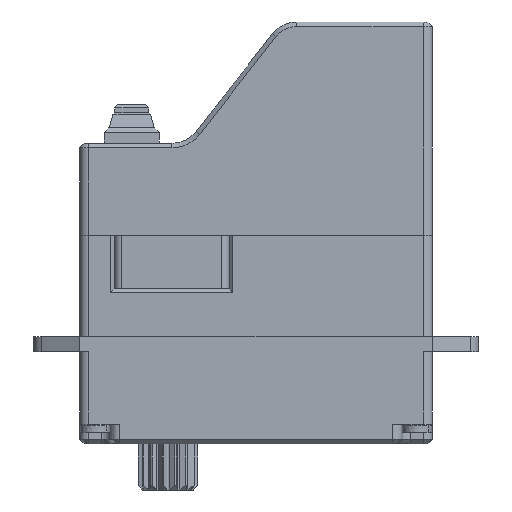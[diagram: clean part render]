
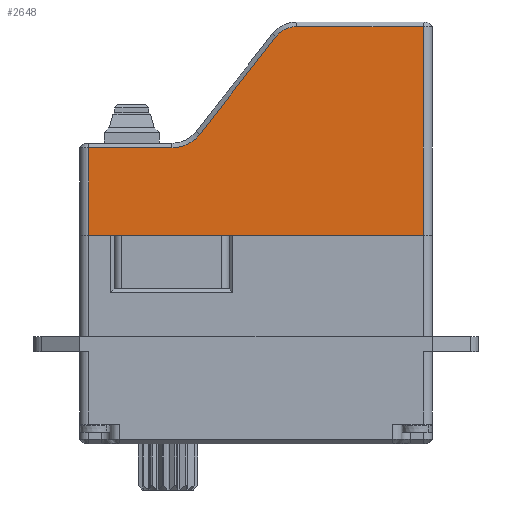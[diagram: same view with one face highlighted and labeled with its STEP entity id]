
A CAD part, front view. The second image highlights one B-rep face of the part: STEP entity #2648.
In plain terms, the highlighted planar face has unit normal (0, -1, 0).
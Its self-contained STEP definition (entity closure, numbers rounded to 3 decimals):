
#152 = CARTESIAN_POINT ( 'NONE',  ( -47.038, 10.745, 1. ) ) ;
#174 = CARTESIAN_POINT ( 'NONE',  ( -56.63, 10.745, 13.947 ) ) ;
#366 = CARTESIAN_POINT ( 'NONE',  ( -46.438, 10.745, 1. ) ) ;
#661 = DIRECTION ( 'NONE',  ( -0.616, 0., -0.788 ) ) ;
#1038 = DIRECTION ( 'NONE',  ( -1., 0., 0. ) ) ;
#1490 = CARTESIAN_POINT ( 'NONE',  ( -55.29, 10.745, 14.6 ) ) ;
#1530 = DIRECTION ( 'NONE',  ( 0., 0., 1. ) ) ;
#1696 = VECTOR ( 'NONE', #3279, 1000. ) ;
#1959 = DIRECTION ( 'NONE',  ( 0., 0., -1. ) ) ;
#2134 = ORIENTED_EDGE ( 'NONE', *, *, #4069, .T. ) ;
#2217 = ORIENTED_EDGE ( 'NONE', *, *, #3478, .F. ) ;
#2417 = EDGE_CURVE ( 'NONE', #3213, #13751, #16255, .T. ) ;
#2648 = ADVANCED_FACE ( 'NONE', ( #5690 ), #9312, .F. ) ;
#2680 = ORIENTED_EDGE ( 'NONE', *, *, #4349, .T. ) ;
#3081 = LINE ( 'NONE', #7654, #9893 ) ;
#3213 = VERTEX_POINT ( 'NONE', #4066 ) ;
#3279 = DIRECTION ( 'NONE',  ( 0., 0., -1. ) ) ;
#3478 = EDGE_CURVE ( 'NONE', #3213, #3899, #16522, .T. ) ;
#3589 = CARTESIAN_POINT ( 'NONE',  ( -63.413, 10.745, 6.7 ) ) ;
#3899 = VERTEX_POINT ( 'NONE', #6225 ) ;
#4066 = CARTESIAN_POINT ( 'NONE',  ( -47.038, 10.745, 1. ) ) ;
#4069 = EDGE_CURVE ( 'NONE', #15280, #13266, #5952, .T. ) ;
#4349 = EDGE_CURVE ( 'NONE', #9047, #5934, #13492, .T. ) ;
#5255 = CARTESIAN_POINT ( 'NONE',  ( -61.601, 10.745, 7.584 ) ) ;
#5415 = ORIENTED_EDGE ( 'NONE', *, *, #15542, .T. ) ;
#5627 = ORIENTED_EDGE ( 'NONE', *, *, #7742, .T. ) ;
#5690 = FACE_OUTER_BOUND ( 'NONE', #7804, .T. ) ;
#5934 = VERTEX_POINT ( 'NONE', #3589 ) ;
#5952 = CIRCLE ( 'NONE', #11090, 1.7 ) ;
#6225 = CARTESIAN_POINT ( 'NONE',  ( -68.838, 10.745, 1. ) ) ;
#7339 = CARTESIAN_POINT ( 'NONE',  ( -46.438, 10.745, 6.7 ) ) ;
#7613 = VERTEX_POINT ( 'NONE', #15582 ) ;
#7654 = CARTESIAN_POINT ( 'NONE',  ( -46.438, 10.745, 14.6 ) ) ;
#7686 = LINE ( 'NONE', #7339, #8291 ) ;
#7742 = EDGE_CURVE ( 'NONE', #13266, #9047, #12896, .T. ) ;
#7804 = EDGE_LOOP ( 'NONE', ( #2680, #5415, #9383, #2217, #15779, #11560, #2134, #5627 ) ) ;
#8181 = DIRECTION ( 'NONE',  ( 0., 0., -1. ) ) ;
#8291 = VECTOR ( 'NONE', #1038, 1000. ) ;
#8981 = AXIS2_PLACEMENT_3D ( 'NONE', #366, #9376, #15748 ) ;
#9047 = VERTEX_POINT ( 'NONE', #5255 ) ;
#9264 = CARTESIAN_POINT ( 'NONE',  ( -59.048, 10.745, 10.852 ) ) ;
#9312 = PLANE ( 'NONE',  #8981 ) ;
#9376 = DIRECTION ( 'NONE',  ( 0., 1., 0. ) ) ;
#9383 = ORIENTED_EDGE ( 'NONE', *, *, #13813, .T. ) ;
#9416 = CARTESIAN_POINT ( 'NONE',  ( -55.29, 10.745, 12.9 ) ) ;
#9893 = VECTOR ( 'NONE', #10338, 1000. ) ;
#10338 = DIRECTION ( 'NONE',  ( -1., 0., 0. ) ) ;
#10689 = DIRECTION ( 'NONE',  ( 0., -1., 0. ) ) ;
#10848 = CARTESIAN_POINT ( 'NONE',  ( -63.413, 10.745, 9. ) ) ;
#11002 = CARTESIAN_POINT ( 'NONE',  ( -68.838, 10.745, 1. ) ) ;
#11090 = AXIS2_PLACEMENT_3D ( 'NONE', #9416, #10689, #8181 ) ;
#11560 = ORIENTED_EDGE ( 'NONE', *, *, #11729, .T. ) ;
#11714 = CARTESIAN_POINT ( 'NONE',  ( -46.438, 10.745, 1. ) ) ;
#11729 = EDGE_CURVE ( 'NONE', #13751, #15280, #3081, .T. ) ;
#12116 = VECTOR ( 'NONE', #1530, 1000. ) ;
#12715 = VECTOR ( 'NONE', #661, 1000. ) ;
#12896 = LINE ( 'NONE', #9264, #12715 ) ;
#13165 = VECTOR ( 'NONE', #15630, 1000. ) ;
#13266 = VERTEX_POINT ( 'NONE', #174 ) ;
#13492 = CIRCLE ( 'NONE', #15002, 2.3 ) ;
#13493 = LINE ( 'NONE', #11002, #1696 ) ;
#13751 = VERTEX_POINT ( 'NONE', #13754 ) ;
#13754 = CARTESIAN_POINT ( 'NONE',  ( -47.038, 10.745, 14.6 ) ) ;
#13813 = EDGE_CURVE ( 'NONE', #7613, #3899, #13493, .T. ) ;
#15002 = AXIS2_PLACEMENT_3D ( 'NONE', #10848, #15942, #1959 ) ;
#15280 = VERTEX_POINT ( 'NONE', #1490 ) ;
#15542 = EDGE_CURVE ( 'NONE', #5934, #7613, #7686, .T. ) ;
#15582 = CARTESIAN_POINT ( 'NONE',  ( -68.838, 10.745, 6.7 ) ) ;
#15630 = DIRECTION ( 'NONE',  ( -1., 0., 0. ) ) ;
#15748 = DIRECTION ( 'NONE',  ( 0., 0., -1. ) ) ;
#15779 = ORIENTED_EDGE ( 'NONE', *, *, #2417, .T. ) ;
#15942 = DIRECTION ( 'NONE',  ( 0., 1., 0. ) ) ;
#16255 = LINE ( 'NONE', #152, #12116 ) ;
#16522 = LINE ( 'NONE', #11714, #13165 ) ;
